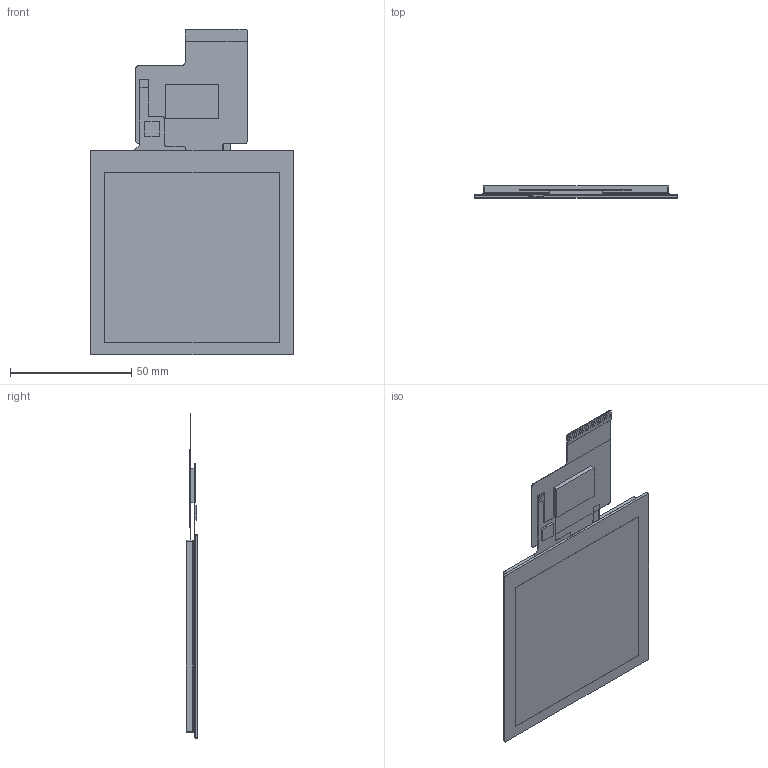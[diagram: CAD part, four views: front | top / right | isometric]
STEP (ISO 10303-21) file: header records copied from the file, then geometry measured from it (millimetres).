
FILE_DESCRIPTION (( 'STEP AP214' ), '1' );
FILE_NAME ('DMG48480F040_01WTC 3D.STEP', '2023-09-14T06:38:24', ( '' ), ( 'Microsoft' ), 'SwSTEP 2.0', 'SolidWorks 2017', '' );
FILE_SCHEMA (( 'AUTOMOTIVE_DESIGN' ));
Length unit declared in the file: millimetre
Products named in the file (4): OCA; TPC040F0037G01V1(GT911)馱最芞; DMG48480F040_01WN; DMG48480F040_01WTC 3D
Assembly tree (3 placements, depth 2):
  DMG48480F040_01WTC 3D
    DMG48480F040_01WN
    TPC040F0037G01V1(GT911)馱最芞
    OCA
Bounding box: 84 x 4.85 x 134.15 mm (x, y, z)
Volume: 30703.4 mm3; surface area: 47260.1 mm2
Topology: 7 solids, 7 shells, 445 faces, 1109 edges, 740 vertices
Faces by surface type: plane 403, cylinder 42
Entity records: 18141 total; most frequent: CARTESIAN_POINT 2303, ORIENTED_EDGE 2218, DIRECTION 2098, EDGE_CURVE 1109, VECTOR 1020, LINE 1020, VERTEX_POINT 740, AXIS2_PLACEMENT_3D 539
